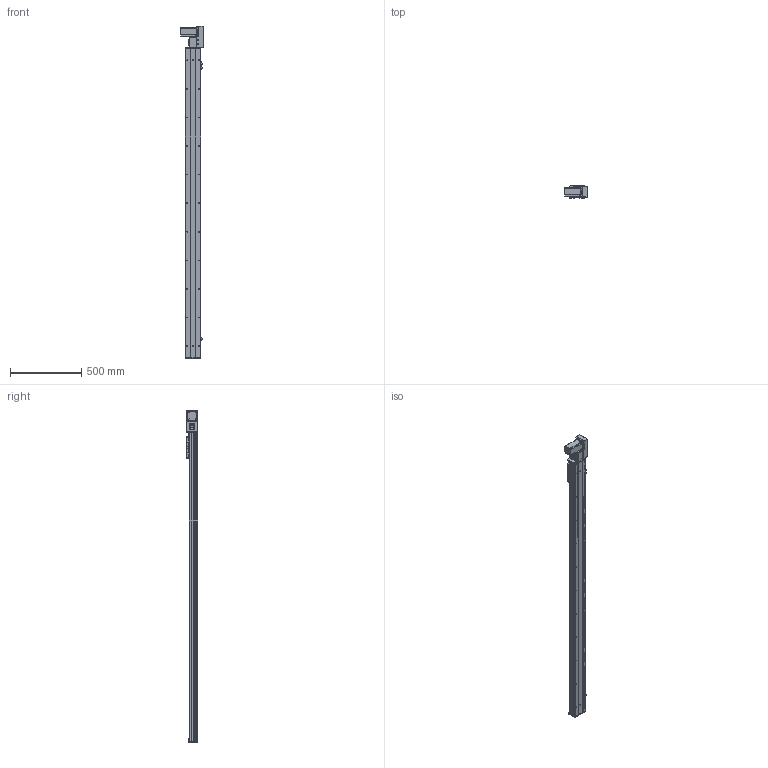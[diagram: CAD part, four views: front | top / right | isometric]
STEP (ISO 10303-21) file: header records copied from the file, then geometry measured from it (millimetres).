
FILE_DESCRIPTION (( 'STEP AP203' ), '1' );
FILE_NAME ('Y10CB-D90-S1900-BR-P400W.STEP', '2020-02-16T02:09:46', ( '微软用户' ), ( '微软中国' ), 'SwSTEP 2.0', 'SolidWorks 2017', '' );
FILE_SCHEMA (( 'CONFIG_CONTROL_DESIGN' ));
Length unit declared in the file: millimetre
Products named in the file (18): 10CB-耜裔; san松下电机400不带刹车----; Y100-135俋离換覜ん--; 0B-源倛裔啣; Y10B--々湍喘謫眊--666; 0B-埴倛裔啣; Y10CB-D90-S1900-BR-P400W; Y俋欶BR----; 0CB-雄赽釱---; 10CB-詩湍-; 0Cb-俋欶---; Y10CB- 掛极耜裔啣-毀---; Y10B-々湍喘謫眊楊擘啣--; Y10C---詩湍揤啣; Y10B-耜蚾蟀諉啣----; 10CB9-掛极; 0B-萇儂楊擘啣; Y135C-陔俋离換覜結え-
Assembly tree (21 placements, depth 2):
  Y10CB-D90-S1900-BR-P400W
    0CB-雄赽釱---
    0Cb-俋欶---
    Y10B-々湍喘謫眊楊擘啣--
    Y10B-耜蚾蟀諉啣----
    0B-萇儂楊擘啣
    san松下电机400不带刹车----
    0B-源倛裔啣
    0B-埴倛裔啣
    Y俋欶BR----
    10CB-詩湍-
    Y10CB- 掛极耜裔啣-毀---  x2
    Y10C---詩湍揤啣  x2
    10CB9-掛极
    10CB-耜裔
    Y135C-陔俋离換覜結え-
    Y100-135俋离換覜ん--  x3
    Y10B--々湍喘謫眊--666
Bounding box: 157.5 x 80.5 x 2322.5 mm (x, y, z)
Volume: 4707394.9 mm3; surface area: 2204889.7 mm2
Topology: 21 solids, 21 shells, 1038 faces, 2803 edges, 1826 vertices
Faces by surface type: cylinder 527, plane 487, cone 24
Entity records: 32904 total; most frequent: CARTESIAN_POINT 6061, DIRECTION 5266, ORIENTED_EDGE 5076, EDGE_CURVE 2538, AXIS2_PLACEMENT_3D 1881, VERTEX_POINT 1652, LINE 1504, VECTOR 1504
